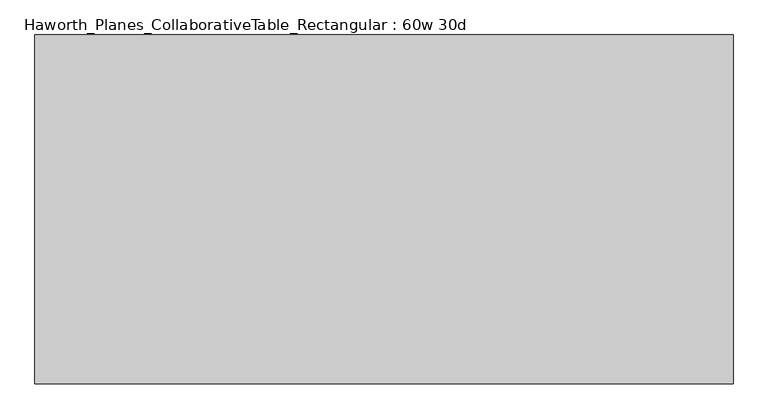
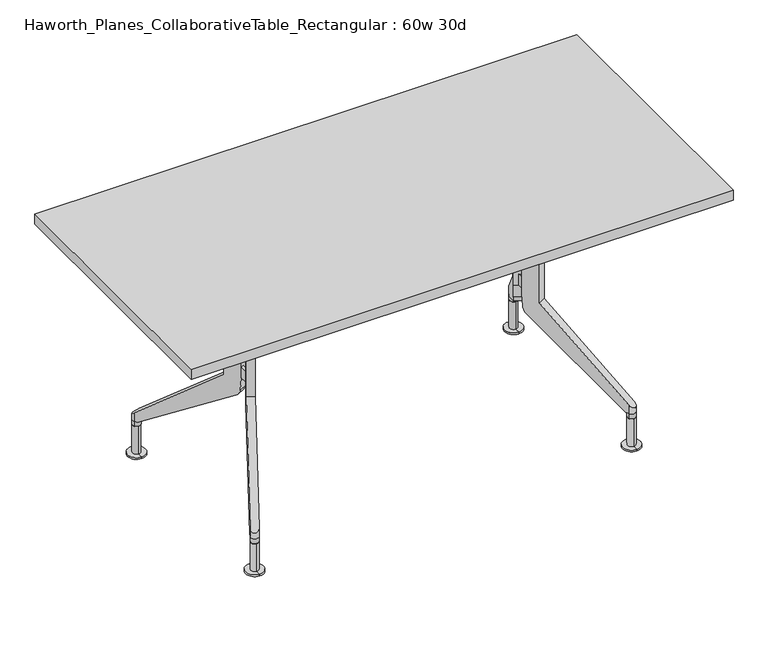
"""IFC4 building model written with IfcOpenShell, lengths in millimetres: furniture geometry, Haworth_Planes_CollaborativeTable_Rectangular : 60w 30d."""

from ifc_helpers import new_model, si_unit, point, frame, frame_2d, origin, place, context, project, spatial, polyline, circle_curve, ellipse_curve, trimmed, segment, composite_curve, outline, extrude, source, transform, mapped, element, save
from ifc_brep_helpers import plane_surface, cylinder_surface, advanced_brep


def haworth_planes_collaborativetable_rectangular_60w_30d_d738dc93(model_context):
    return source(origin(), model_context, "Body", "SolidModel", [
        extrude(outline(composite_curve([segment(polyline([(62.6070312, 684.7085937), (62.6070312, 643.5651991)]), True, "CONTINUOUS"), segment(trimmed(circle_curve(frame_2d((56.2570312, 643.5651991)), 6.35), [point((62.6070312, 643.5651991))], [point((56.2570312, 637.2151991))], False, "CARTESIAN"), True, "CONTINUOUS"), segment(polyline([(56.2570312, 637.2151991), (-56.2570313, 637.2151991)]), True, "CONTINUOUS"), segment(trimmed(circle_curve(frame_2d((-56.2570313, 643.5651991)), 6.35), [point((-56.2570313, 637.2151991))], [point((-62.6070313, 643.5651991))], False, "CARTESIAN"), True, "CONTINUOUS"), segment(polyline([(-62.6070313, 643.5651991), (-62.6070313, 684.7085937), (62.6070312, 684.7085937)]), True, "CONTINUOUS")], self_intersect=False)), frame((-381.0, 0.0, 0.0), z_axis=(1.0, 0.0, 0.0), x_axis=(0.0, 1.0, 0.0)), (0.0, 0.0, 1.0), 762.0),
        extrude(outline(polyline([(762.0, 381.0), (762.0, -381.0), (-762.0, -381.0), (-762.0, 381.0), (762.0, 381.0)])), frame((0.0, 0.0, 706.4375), z_axis=(0.0, 0.0, 1.0), x_axis=(1.0, 0.0, 0.0)), (0.0, 0.0, 1.0), 30.1625),
        advanced_brep(
        [(530.225, -276.6169029, 87.3125), (520.4062702, -292.9500622, 87.3125), (530.2071566, -298.8418958, 87.3125), (530.2160783, -287.7293994, 87.3125), (540.0298221, -282.5161384, 87.3125), (530.2160783, -287.7293994, 0.0), (530.1956859, -313.1293912, 0.0), (530.2364707, -262.3294076, 0.0), (530.1956859, -313.1293912, 4.7625), (530.2364707, -262.3294076, 4.7625), (530.2071566, -298.8418958, 4.7625), (530.225, -276.6169029, 4.7625), (530.2071566, -298.8418958, 81.9372337)],
        [
            (0, 1, circle_curve(frame((530.2160783, -287.7293994, 87.3125), z_axis=(0.0, 0.0, 1.0), x_axis=(0.0008028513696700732, 0.9999996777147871, 0.0)), 11.1125)),
            (1, 2, circle_curve(frame((530.2160783, -287.7293994, 87.3125), z_axis=(0.0, 0.0, 1.0), x_axis=(0.0008028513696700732, 0.9999996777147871, 0.0)), 11.1125)),
            (2, 3),
            (3, 0),
            (2, 4, circle_curve(frame((530.2160783, -287.7293994, 87.3125), z_axis=(0.0, 0.0, 1.0), x_axis=(0.0008028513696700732, 0.9999996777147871, 0.0)), 11.1125)),
            (4, 0, circle_curve(frame((530.2160783, -287.7293994, 87.3125), z_axis=(0.0, 0.0, 1.0), x_axis=(0.0008028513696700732, 0.9999996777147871, 0.0)), 11.1125)),
            (5, 6),
            (6, 7, circle_curve(frame((530.2160783, -287.7293994, 0.0), z_axis=(0.0, 0.0, -1.0), x_axis=(0.0008028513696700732, 0.9999996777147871, 0.0)), 25.4)),
            (7, 5),
            (7, 6, circle_curve(frame((530.2160783, -287.7293994, 0.0), z_axis=(0.0, 0.0, -1.0), x_axis=(0.0008028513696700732, 0.9999996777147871, 0.0)), 25.4)),
            (6, 8),
            (8, 9, circle_curve(frame((530.2160783, -287.7293994, 4.7625), z_axis=(0.0, 0.0, -1.0), x_axis=(0.0008028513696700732, 0.9999996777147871, 0.0)), 25.4)),
            (9, 7),
            (9, 8, circle_curve(frame((530.2160783, -287.7293994, 4.7625), z_axis=(0.0, 0.0, -1.0), x_axis=(0.0008028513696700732, 0.9999996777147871, 0.0)), 25.4)),
            (8, 10),
            (10, 11, circle_curve(frame((530.2160783, -287.7293994, 4.7625), z_axis=(0.0, 0.0, -1.0), x_axis=(0.0008028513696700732, 0.9999996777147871, 0.0)), 11.1125)),
            (11, 9),
            (11, 10, circle_curve(frame((530.2160783, -287.7293994, 4.7625), z_axis=(0.0, 0.0, -1.0), x_axis=(0.0008028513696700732, 0.9999996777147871, 0.0)), 11.1125)),
            (10, 12),
            (12, 2),
            (0, 11),
        ],
        [
            plane_surface(frame((530.2160783, -287.7293994, 87.3125), z_axis=(0.0, 0.0, 1.0), x_axis=(0.0008028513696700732, 0.9999996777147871, 0.0))),
            plane_surface(frame((530.2160783, -287.7293994, 0.0), z_axis=(0.0, 0.0, -1.0), x_axis=(0.0008028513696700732, 0.9999996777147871, 0.0))),
            cylinder_surface(frame((530.2160783, -287.7293994, 87.0927212), z_axis=(0.0, 0.0, -1.0), x_axis=(0.0008028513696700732, 0.9999996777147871, 0.0)), 25.4),
            plane_surface(frame((530.2160783, -287.7293994, 4.7625), z_axis=(0.0, 0.0, 1.0), x_axis=(0.0008028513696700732, 0.9999996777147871, 0.0))),
            cylinder_surface(frame((530.2160783, -287.7293994, 87.0927212), z_axis=(0.0, 0.0, -1.0), x_axis=(0.0008028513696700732, 0.9999996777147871, 0.0)), 11.1125),
        ],
        [
            (0, [[1, 2, 3, 4]]),
            (0, [[-3, 5, 6, -4]]),
            (1, [[7, 8, 9]]),
            (1, [[10, -7, -9]]),
            (2, [[11, 12, 13, -8]]),
            (2, [[-13, 14, -11, -10]]),
            (3, [[15, 16, 17, -12]]),
            (3, [[-17, 18, -15, -14]]),
            (4, [[19, 20, -2, -1, 21, -16]]),
            (4, [[-21, -6, -5, -20, -19, -18]]),
        ],
    ),
        advanced_brep(
        [(530.2339217, 287.7294065, 87.3125), (530.225, 298.8419029, 87.3125), (530.2428434, 276.6169101, 87.3125), (530.2135293, 313.1293983, 0.0), (530.2339217, 287.7294065, 0.0), (530.2543141, 262.3294147, 0.0), (530.2135293, 313.1293983, 4.7625), (530.2543141, 262.3294147, 4.7625), (530.225, 298.8419029, 4.7625), (530.2428434, 276.6169101, 4.7625)],
        [
            (0, 1),
            (1, 2, circle_curve(frame((530.2339217, 287.7294065, 87.3125), z_axis=(0.0, 0.0, 1.0), x_axis=(0.0008028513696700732, -0.9999996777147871, 0.0)), 11.1125)),
            (2, 0),
            (2, 1, circle_curve(frame((530.2339217, 287.7294065, 87.3125), z_axis=(0.0, 0.0, 1.0), x_axis=(0.0008028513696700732, -0.9999996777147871, 0.0)), 11.1125)),
            (3, 4),
            (4, 5),
            (5, 3, circle_curve(frame((530.2339217, 287.7294065, 0.0), z_axis=(0.0, 0.0, -1.0), x_axis=(0.0008028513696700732, -0.9999996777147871, 0.0)), 25.4)),
            (3, 5, circle_curve(frame((530.2339217, 287.7294065, 0.0), z_axis=(0.0, 0.0, -1.0), x_axis=(0.0008028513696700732, -0.9999996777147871, 0.0)), 25.4)),
            (6, 3),
            (5, 7),
            (7, 6, circle_curve(frame((530.2339217, 287.7294065, 4.7625), z_axis=(0.0, 0.0, -1.0), x_axis=(0.0008028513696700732, -0.9999996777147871, 0.0)), 25.4)),
            (6, 7, circle_curve(frame((530.2339217, 287.7294065, 4.7625), z_axis=(0.0, 0.0, -1.0), x_axis=(0.0008028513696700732, -0.9999996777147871, 0.0)), 25.4)),
            (8, 6),
            (7, 9),
            (9, 8, circle_curve(frame((530.2339217, 287.7294065, 4.7625), z_axis=(0.0, 0.0, -1.0), x_axis=(0.0008028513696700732, -0.9999996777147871, 0.0)), 11.1125)),
            (8, 9, circle_curve(frame((530.2339217, 287.7294065, 4.7625), z_axis=(0.0, 0.0, -1.0), x_axis=(0.0008028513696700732, -0.9999996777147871, 0.0)), 11.1125)),
            (1, 8),
            (9, 2),
        ],
        [
            plane_surface(frame((530.2339217, 287.7294065, 87.3125), z_axis=(0.0, 0.0, 1.0), x_axis=(0.0008028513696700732, -0.9999996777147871, 0.0))),
            plane_surface(frame((530.2339217, 287.7294065, 0.0), z_axis=(0.0, 0.0, -1.0), x_axis=(0.0008028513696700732, -0.9999996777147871, 0.0))),
            cylinder_surface(frame((530.2339217, 287.7294065, 87.0927212), z_axis=(0.0, 0.0, 1.0), x_axis=(0.0008028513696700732, -0.9999996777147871, 0.0)), 25.4),
            plane_surface(frame((530.2339217, 287.7294065, 4.7625), z_axis=(0.0, 0.0, 1.0), x_axis=(0.0008028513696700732, -0.9999996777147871, 0.0))),
            cylinder_surface(frame((530.2339217, 287.7294065, 87.0927212), z_axis=(0.0, 0.0, 1.0), x_axis=(0.0008028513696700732, -0.9999996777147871, 0.0)), 11.1125),
        ],
        [
            (0, [[1, 2, 3]]),
            (0, [[-3, 4, -1]]),
            (1, [[5, 6, 7]]),
            (1, [[-6, -5, 8]]),
            (2, [[9, -7, 10, 11]]),
            (2, [[-10, -8, -9, 12]]),
            (3, [[13, -11, 14, 15]]),
            (3, [[-14, -12, -13, 16]]),
            (4, [[17, -15, 18, -2]]),
            (4, [[-18, -16, -17, -4]]),
        ],
    ),
        advanced_brep(
        [(395.2875, 10.2759364, 346.075), (395.2875, -10.2759364, 346.075), (386.9624427, -14.7024039, 346.075), (386.9624427, 14.7024039, 346.075), (386.9624427, -14.7024039, 377.825), (386.9624427, 14.7024039, 377.825), (395.2875, -10.2759364, 377.825), (395.2875, 10.2759364, 377.825), (520.4132234, 292.9463652, 127.0692937), (540.0367766, 282.5124407, 127.0692937), (540.0367766, 282.5124407, 102.60711), (520.4132234, 292.9463652, 102.60711), (399.5129171, 65.5636971, 706.4375), (399.5129171, 65.5636971, 336.5430612), (516.0759245, 284.7890113, 102.60711), (382.2901681, 33.1720949, 289.5346), (376.8554044, 22.9506894, 309.598894), (375.6639467, 20.709861, 345.8924055), (375.6639467, 20.709861, 706.4375), (419.1364704, 55.1297725, 706.4375), (395.2875, 10.2759364, 706.4375), (395.2875, 10.2759364, 345.8924055), (396.4789577, 12.5167648, 309.598894), (401.9137214, 22.7381703, 289.5346), (535.6994778, 274.3550868, 102.60711), (419.1364704, 55.1297725, 336.5430612), (520.4353129, 282.4711065, 102.60711), (531.3400894, 276.6729916, 102.60711), (540.0367766, 282.5124407, 87.3125), (520.4132234, 292.9463652, 87.3125), (520.4132234, -292.9463652, 102.60711), (540.0367766, -282.5124407, 102.60711), (540.0367766, -282.5124407, 127.0692937), (520.4132234, -292.9463652, 127.0692937), (399.5129171, -65.5636971, 706.4375), (375.6639467, -20.709861, 706.4375), (375.6639467, -20.709861, 345.8924055), (376.8554044, -22.9506894, 309.598894), (382.2901681, -33.1720949, 289.5346), (516.0759245, -284.7890113, 102.60711), (399.5129171, -65.5636971, 336.5430612), (419.1364704, -55.1297725, 706.4375), (419.1364704, -55.1297725, 336.5430612), (535.6994778, -274.3550868, 102.60711), (401.9137214, -22.7381703, 289.5346), (396.4789577, -12.5167648, 309.598894), (395.2875, -10.2759364, 345.8924055), (395.2875, -10.2759364, 706.4375), (531.3400894, -276.6729916, 102.60711), (520.4353129, -282.4711065, 102.60711), (540.0367766, -282.5124407, 87.3125), (520.4132234, -292.9463652, 87.3125)],
        [
            (0, 1),
            (1, 2),
            (2, 3),
            (3, 0),
            (2, 4),
            (4, 5),
            (5, 3),
            (4, 6),
            (6, 7),
            (7, 5),
            (6, 1),
            (0, 7),
            (8, 9, ellipse_curve(frame((530.225, 287.7294029, 127.0692937), z_axis=(-0.29624204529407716, -0.5571557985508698, -0.7757693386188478), x_axis=(0.36419881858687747, 0.6849651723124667, -0.6310165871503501)), 14.3244898, 11.1125)),
            (9, 10),
            (10, 11, circle_curve(frame((530.225, 287.7294029, 102.60711), z_axis=(0.0, 0.0, 1.0), x_axis=(-0.8829495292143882, 0.4694679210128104, 0.0)), 11.1125)),
            (11, 8),
            (12, 13),
            (13, 8),
            (11, 14),
            (14, 15),
            (15, 16, circle_curve(frame((389.2363015, 46.2360018, 311.4430172), z_axis=(-0.8829495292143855, 0.4694679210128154, 0.0), x_axis=(-0.4694679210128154, -0.8829495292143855, 0.0)), 26.4365879)),
            (16, 17),
            (17, 18),
            (18, 12),
            (19, 20),
            (20, 7),
            (0, 21),
            (21, 22),
            (22, 23, circle_curve(frame((408.8598548, 35.8020773, 311.4430172), z_axis=(0.8829495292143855, -0.4694679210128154, 0.0), x_axis=(-0.4694679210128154, -0.8829495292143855, 0.0)), 26.4365879)),
            (23, 24),
            (24, 10),
            (9, 25),
            (25, 19),
            (18, 20),
            (19, 12),
            (17, 21),
            (16, 22),
            (15, 23),
            (14, 26),
            (26, 27),
            (27, 24),
            (13, 25),
            (27, 10, circle_curve(frame((530.225, 287.7294029, 102.60711), z_axis=(0.0, 0.0, 1.0), x_axis=(-0.8829495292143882, 0.4694679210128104, 0.0)), 11.1125)),
            (11, 26, circle_curve(frame((530.225, 287.7294029, 102.60711), z_axis=(0.0, 0.0, 1.0), x_axis=(-0.8829495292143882, 0.4694679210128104, 0.0)), 11.1125)),
            (26, 27, circle_curve(frame((530.225, 287.7294029, 102.60711), z_axis=(0.0, 0.0, 1.0), x_axis=(-0.8829495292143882, 0.4694679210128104, 0.0)), 11.1125)),
            (28, 29, circle_curve(frame((530.225, 287.7294029, 87.3125), z_axis=(0.0, 0.0, -1.0), x_axis=(-0.8829495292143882, 0.4694679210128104, 0.0)), 11.1125)),
            (29, 28, circle_curve(frame((530.225, 287.7294029, 87.3125), z_axis=(0.0, 0.0, -1.0), x_axis=(-0.8829495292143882, 0.4694679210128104, 0.0)), 11.1125)),
            (29, 11),
            (10, 28),
            (30, 31, circle_curve(frame((530.225, -287.7294029, 102.60711), z_axis=(0.0, 0.0, 1.0), x_axis=(-0.8829495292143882, -0.4694679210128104, 0.0)), 11.1125)),
            (31, 32),
            (32, 33, ellipse_curve(frame((530.225, -287.7294029, 127.0692937), z_axis=(-0.29624204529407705, 0.5571557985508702, -0.7757693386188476), x_axis=(0.36419881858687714, -0.6849651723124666, -0.6310165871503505)), 14.3244898, 11.1125)),
            (33, 30),
            (34, 35),
            (35, 36),
            (36, 37),
            (37, 38, circle_curve(frame((389.2363015, -46.2360018, 311.4430172), z_axis=(-0.8829495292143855, -0.4694679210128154, 0.0), x_axis=(-0.4694679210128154, 0.8829495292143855, 0.0)), 26.4365879)),
            (38, 39),
            (39, 30),
            (33, 40),
            (40, 34),
            (41, 42),
            (42, 32),
            (31, 43),
            (43, 44),
            (44, 45, circle_curve(frame((408.8598548, -35.8020773, 311.4430172), z_axis=(0.8829495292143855, 0.4694679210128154, 0.0), x_axis=(-0.4694679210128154, 0.8829495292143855, 0.0)), 26.4365879)),
            (45, 46),
            (46, 1),
            (6, 47),
            (47, 41),
            (34, 41),
            (47, 35),
            (46, 36),
            (45, 37),
            (44, 38),
            (43, 48),
            (48, 49),
            (49, 39),
            (42, 40),
            (49, 30, circle_curve(frame((530.225, -287.7294029, 102.60711), z_axis=(0.0, 0.0, 1.0), x_axis=(-0.8829495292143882, -0.4694679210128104, 0.0)), 11.1125)),
            (31, 48, circle_curve(frame((530.225, -287.7294029, 102.60711), z_axis=(0.0, 0.0, 1.0), x_axis=(-0.8829495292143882, -0.4694679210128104, 0.0)), 11.1125)),
            (48, 49, circle_curve(frame((530.225, -287.7294029, 102.60711), z_axis=(0.0, 0.0, 1.0), x_axis=(-0.8829495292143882, -0.4694679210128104, 0.0)), 11.1125)),
            (50, 51, circle_curve(frame((530.225, -287.7294029, 87.3125), z_axis=(0.0, 0.0, -1.0), x_axis=(-0.8829495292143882, -0.4694679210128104, 0.0)), 11.1125)),
            (51, 50, circle_curve(frame((530.225, -287.7294029, 87.3125), z_axis=(0.0, 0.0, -1.0), x_axis=(-0.8829495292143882, -0.4694679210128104, 0.0)), 11.1125)),
            (50, 31),
            (30, 51),
        ],
        [
            plane_surface(frame((395.2875, -25.4, 346.075), z_axis=(0.0, 0.0, -1.0), x_axis=(0.0, 1.0, 0.0))),
            plane_surface(frame((386.9624427, -25.4, 346.075), z_axis=(-1.0, 0.0, 0.0), x_axis=(0.0, 1.0, 0.0))),
            plane_surface(frame((386.9624427, -25.4, 377.825), z_axis=(0.0, 0.0, 1.0), x_axis=(0.0, 1.0, 0.0))),
            plane_surface(frame((395.2875, -25.4, 377.825), z_axis=(1.0, 0.0, 0.0), x_axis=(0.0, 1.0, 0.0))),
            cylinder_surface(frame((530.225, 287.7294029, 81.9372337), z_axis=(0.0, 0.0, -1.0), x_axis=(-0.8829495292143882, 0.4694679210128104, 0.0)), 11.1125),
            plane_surface(frame((375.6639467, 20.709861, 706.4375), z_axis=(-0.8829495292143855, 0.4694679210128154, 0.0), x_axis=(-0.4694679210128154, -0.8829495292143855, 0.0))),
            plane_surface(frame((395.2875, 10.2759364, 706.4375), z_axis=(0.8829495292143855, -0.4694679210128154, 0.0), x_axis=(0.4694679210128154, 0.8829495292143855, 0.0))),
            plane_surface(frame((399.5129171, 65.5636971, 706.4375), z_axis=(0.0, 0.0, 1.0000000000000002), x_axis=(0.8829495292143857, -0.469467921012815, 0.0))),
            plane_surface(frame((375.6639467, 20.709861, 706.4375), z_axis=(-0.4694679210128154, -0.8829495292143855, 0.0), x_axis=(0.8829495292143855, -0.4694679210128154, 0.0))),
            plane_surface(frame((375.6639467, 20.709861, 345.8924055), z_axis=(-0.46832432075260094, -0.8807987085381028, -0.0697564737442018), x_axis=(0.8829495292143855, -0.4694679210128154, 0.0))),
            cylinder_surface(frame((408.8598548, 35.8020773, 311.4430172), z_axis=(-0.8829495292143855, 0.4694679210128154, 0.0), x_axis=(-0.4694679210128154, -0.8829495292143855, 0.0)), 26.4365879),
            plane_surface(frame((382.2901681, 33.1720949, 289.5346), z_axis=(-0.2574936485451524, -0.48427993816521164, -0.8361638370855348), x_axis=(0.8829495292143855, -0.4694679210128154, 0.0))),
            plane_surface(frame((526.425069, 304.2531149, 116.6530756), z_axis=(0.29624204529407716, 0.5571557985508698, 0.7757693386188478), x_axis=(0.8829495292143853, -0.4694679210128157, 0.0))),
            plane_surface(frame((399.5129171, 65.5636971, 336.5430612), z_axis=(0.46946792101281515, 0.8829495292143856, 0.0), x_axis=(0.8829495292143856, -0.46946792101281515, 0.0))),
            plane_surface(frame((516.0759245, 284.7890113, 102.60711), z_axis=(0.0, 0.0, -1.0), x_axis=(0.8829495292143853, -0.4694679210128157, 0.0))),
            plane_surface(frame((520.4132234, 292.9463652, 102.60711), z_axis=(0.0, 0.0, 1.0), x_axis=(0.4694679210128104, 0.8829495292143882, 0.0))),
            plane_surface(frame((520.4132234, 292.9463652, 87.3125), z_axis=(0.0, 0.0, -1.0), x_axis=(-0.4694679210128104, -0.8829495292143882, 0.0))),
            cylinder_surface(frame((530.225, 287.7294029, 87.3125), z_axis=(0.0, 0.0, 1.0), x_axis=(-0.8829495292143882, 0.4694679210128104, 0.0)), 11.1125),
            cylinder_surface(frame((530.225, -287.7294029, 81.9372337), z_axis=(0.0, 0.0, -1.0), x_axis=(-0.8829495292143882, -0.4694679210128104, 0.0)), 11.1125),
            plane_surface(frame((399.5129171, -65.5636971, 336.5430612), z_axis=(-0.8829495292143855, -0.4694679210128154, 0.0), x_axis=(0.0, 0.0, -1.0))),
            plane_surface(frame((419.1364704, -55.1297725, 336.5430612), z_axis=(0.8829495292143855, 0.4694679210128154, 0.0), x_axis=(0.0, 0.0, 1.0))),
            plane_surface(frame((375.6639467, -20.709861, 706.4375), z_axis=(0.0, 0.0, 1.0000000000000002), x_axis=(0.8829495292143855, 0.4694679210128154, 0.0))),
            plane_surface(frame((375.6639467, -20.709861, 345.8924055), z_axis=(-0.4694679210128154, 0.8829495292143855, 0.0), x_axis=(0.8829495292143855, 0.4694679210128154, 0.0))),
            plane_surface(frame((376.8554044, -22.9506894, 309.598894), z_axis=(-0.46832432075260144, 0.8807987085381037, -0.06975647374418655), x_axis=(0.8829495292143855, 0.4694679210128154, 0.0))),
            cylinder_surface(frame((408.8598548, -35.8020773, 311.4430172), z_axis=(-0.8829495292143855, -0.4694679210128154, 0.0), x_axis=(-0.4694679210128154, 0.8829495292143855, 0.0)), 26.4365879),
            plane_surface(frame((516.0759245, -284.7890113, 102.60711), z_axis=(-0.25749364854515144, 0.48427993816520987, -0.8361638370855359), x_axis=(0.8829495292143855, 0.4694679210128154, 0.0))),
            plane_surface(frame((399.5129171, -65.5636971, 336.5430612), z_axis=(0.2962420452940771, -0.5571557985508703, 0.7757693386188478), x_axis=(0.8829495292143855, 0.4694679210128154, 0.0))),
            plane_surface(frame((399.5129171, -65.5636971, 706.4375), z_axis=(0.4694679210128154, -0.8829495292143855, 0.0), x_axis=(0.8829495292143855, 0.4694679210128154, 0.0))),
            plane_surface(frame((526.425069, -304.2531149, 102.60711), z_axis=(0.0, 0.0, -1.0), x_axis=(0.8829495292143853, 0.4694679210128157, 0.0))),
            plane_surface(frame((520.4132234, -292.9463652, 102.60711), z_axis=(0.0, 0.0, 1.0), x_axis=(-0.4694679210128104, 0.8829495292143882, 0.0))),
            plane_surface(frame((520.4132234, -292.9463652, 87.3125), z_axis=(0.0, 0.0, -1.0), x_axis=(0.4694679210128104, -0.8829495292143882, 0.0))),
            cylinder_surface(frame((530.225, -287.7294029, 87.3125), z_axis=(0.0, 0.0, 1.0), x_axis=(-0.8829495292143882, -0.4694679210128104, 0.0)), 11.1125),
        ],
        [
            (0, [[1, 2, 3, 4]]),
            (1, [[-3, 5, 6, 7]]),
            (2, [[-6, 8, 9, 10]]),
            (3, [[-9, 11, -1, 12]]),
            (4, [[13, 14, 15, 16]]),
            (5, [[17, 18, -16, 19, 20, 21, 22, 23, 24]]),
            (6, [[25, 26, -12, 27, 28, 29, 30, 31, -14, 32, 33]]),
            (7, [[34, -25, 35, -24]]),
            (8, [[36, -27, -4, -7, -10, -26, -34, -23]]),
            (9, [[37, -28, -36, -22]]),
            (10, [[38, -29, -37, -21]]),
            (11, [[39, 40, 41, -30, -38, -20]]),
            (12, [[-32, -13, -18, 42]]),
            (13, [[-35, -33, -42, -17]]),
            (14, [[-41, 43, -31]]),
            (14, [[44, -39, -19]]),
            (15, [[-40, 45]]),
            (16, [[46, 47]]),
            (17, [[48, -15, 49, -47]]),
            (17, [[-49, -43, -45, -44, -48, -46]]),
            (18, [[50, 51, 52, 53]]),
            (19, [[54, 55, 56, 57, 58, 59, -53, 60, 61]]),
            (20, [[62, 63, -51, 64, 65, 66, 67, 68, -11, 69, 70]]),
            (21, [[71, -70, 72, -54]]),
            (22, [[-72, -69, -8, -5, -2, -68, 73, -55]]),
            (23, [[-73, -67, 74, -56]]),
            (24, [[-74, -66, 75, -57]]),
            (25, [[-75, -65, 76, 77, 78, -58]]),
            (26, [[-60, -52, -63, 79]]),
            (27, [[-79, -62, -71, -61]]),
            (28, [[-78, 80, -59]]),
            (28, [[81, -76, -64]]),
            (29, [[-77, 82]]),
            (30, [[83, 84]]),
            (31, [[85, -50, 86, -83]]),
            (31, [[-86, -80, -82, -81, -85, -84]]),
        ],
    ),
        advanced_brep(
        [(-530.225, -276.6169029, 87.3125), (-530.2160783, -287.7293994, 87.3125), (-530.2071566, -298.8418958, 87.3125), (-520.4062702, -292.9500622, 87.3125), (-540.0298221, -282.5161384, 87.3125), (-530.2160783, -287.7293994, 0.0), (-530.2364707, -262.3294076, 0.0), (-530.1956859, -313.1293912, 0.0), (-530.2364707, -262.3294076, 4.7625), (-530.1956859, -313.1293912, 4.7625), (-530.225, -276.6169029, 4.7625), (-530.2071566, -298.8418958, 4.7625), (-530.2071566, -298.8418958, 81.9372337)],
        [
            (0, 1),
            (1, 2),
            (2, 3, circle_curve(frame((-530.2160783, -287.7293994, 87.3125), z_axis=(0.0, 0.0, 1.0), x_axis=(-0.0008028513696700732, 0.9999996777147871, 0.0)), 11.1125)),
            (3, 0, circle_curve(frame((-530.2160783, -287.7293994, 87.3125), z_axis=(0.0, 0.0, 1.0), x_axis=(-0.0008028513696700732, 0.9999996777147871, 0.0)), 11.1125)),
            (0, 4, circle_curve(frame((-530.2160783, -287.7293994, 87.3125), z_axis=(0.0, 0.0, 1.0), x_axis=(-0.0008028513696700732, 0.9999996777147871, 0.0)), 11.1125)),
            (4, 2, circle_curve(frame((-530.2160783, -287.7293994, 87.3125), z_axis=(0.0, 0.0, 1.0), x_axis=(-0.0008028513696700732, 0.9999996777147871, 0.0)), 11.1125)),
            (5, 6),
            (6, 7, circle_curve(frame((-530.2160783, -287.7293994, 0.0), z_axis=(0.0, 0.0, -1.0), x_axis=(-0.0008028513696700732, 0.9999996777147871, 0.0)), 25.4)),
            (7, 5),
            (7, 6, circle_curve(frame((-530.2160783, -287.7293994, 0.0), z_axis=(0.0, 0.0, -1.0), x_axis=(-0.0008028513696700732, 0.9999996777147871, 0.0)), 25.4)),
            (6, 8),
            (8, 9, circle_curve(frame((-530.2160783, -287.7293994, 4.7625), z_axis=(0.0, 0.0, -1.0), x_axis=(-0.0008028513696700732, 0.9999996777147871, 0.0)), 25.4)),
            (9, 7),
            (9, 8, circle_curve(frame((-530.2160783, -287.7293994, 4.7625), z_axis=(0.0, 0.0, -1.0), x_axis=(-0.0008028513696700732, 0.9999996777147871, 0.0)), 25.4)),
            (8, 10),
            (10, 11, circle_curve(frame((-530.2160783, -287.7293994, 4.7625), z_axis=(0.0, 0.0, -1.0), x_axis=(-0.0008028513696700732, 0.9999996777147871, 0.0)), 11.1125)),
            (11, 9),
            (11, 10, circle_curve(frame((-530.2160783, -287.7293994, 4.7625), z_axis=(0.0, 0.0, -1.0), x_axis=(-0.0008028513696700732, 0.9999996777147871, 0.0)), 11.1125)),
            (10, 0),
            (2, 12),
            (12, 11),
        ],
        [
            plane_surface(frame((-530.2160783, -287.7293994, 87.3125), z_axis=(0.0, 0.0, 1.0), x_axis=(-0.0008028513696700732, 0.9999996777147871, 0.0))),
            plane_surface(frame((-530.2160783, -287.7293994, 0.0), z_axis=(0.0, 0.0, -1.0), x_axis=(-0.0008028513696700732, 0.9999996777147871, 0.0))),
            cylinder_surface(frame((-530.2160783, -287.7293994, 87.0927212), z_axis=(0.0, 0.0, -1.0), x_axis=(-0.0008028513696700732, 0.9999996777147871, 0.0)), 25.4),
            plane_surface(frame((-530.2160783, -287.7293994, 4.7625), z_axis=(0.0, 0.0, 1.0), x_axis=(-0.0008028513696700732, 0.9999996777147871, 0.0))),
            cylinder_surface(frame((-530.2160783, -287.7293994, 87.0927212), z_axis=(0.0, 0.0, -1.0), x_axis=(-0.0008028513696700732, 0.9999996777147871, 0.0)), 11.1125),
        ],
        [
            (0, [[1, 2, 3, 4]]),
            (0, [[-1, 5, 6, -2]]),
            (1, [[7, 8, 9]]),
            (1, [[-7, -9, 10]]),
            (2, [[-8, 11, 12, 13]]),
            (2, [[-10, -13, 14, -11]]),
            (3, [[-12, 15, 16, 17]]),
            (3, [[-14, -17, 18, -15]]),
            (4, [[-16, 19, -4, -3, 20, 21]]),
            (4, [[-18, -21, -20, -6, -5, -19]]),
        ],
    ),
        advanced_brep(
        [(-530.2339217, 287.7294065, 87.3125), (-530.2428434, 276.6169101, 87.3125), (-530.225, 298.8419029, 87.3125), (-530.2135293, 313.1293983, 0.0), (-530.2543141, 262.3294147, 0.0), (-530.2339217, 287.7294065, 0.0), (-530.2135293, 313.1293983, 4.7625), (-530.2543141, 262.3294147, 4.7625), (-530.225, 298.8419029, 4.7625), (-530.2428434, 276.6169101, 4.7625)],
        [
            (0, 1),
            (1, 2, circle_curve(frame((-530.2339217, 287.7294065, 87.3125), z_axis=(0.0, 0.0, 1.0), x_axis=(-0.0008028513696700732, -0.9999996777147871, 0.0)), 11.1125)),
            (2, 0),
            (2, 1, circle_curve(frame((-530.2339217, 287.7294065, 87.3125), z_axis=(0.0, 0.0, 1.0), x_axis=(-0.0008028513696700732, -0.9999996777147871, 0.0)), 11.1125)),
            (3, 4, circle_curve(frame((-530.2339217, 287.7294065, 0.0), z_axis=(0.0, 0.0, -1.0), x_axis=(-0.0008028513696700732, -0.9999996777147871, 0.0)), 25.4)),
            (4, 5),
            (5, 3),
            (4, 3, circle_curve(frame((-530.2339217, 287.7294065, 0.0), z_axis=(0.0, 0.0, -1.0), x_axis=(-0.0008028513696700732, -0.9999996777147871, 0.0)), 25.4)),
            (6, 7, circle_curve(frame((-530.2339217, 287.7294065, 4.7625), z_axis=(0.0, 0.0, -1.0), x_axis=(-0.0008028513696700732, -0.9999996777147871, 0.0)), 25.4)),
            (7, 4),
            (3, 6),
            (7, 6, circle_curve(frame((-530.2339217, 287.7294065, 4.7625), z_axis=(0.0, 0.0, -1.0), x_axis=(-0.0008028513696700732, -0.9999996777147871, 0.0)), 25.4)),
            (8, 9, circle_curve(frame((-530.2339217, 287.7294065, 4.7625), z_axis=(0.0, 0.0, -1.0), x_axis=(-0.0008028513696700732, -0.9999996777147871, 0.0)), 11.1125)),
            (9, 7),
            (6, 8),
            (9, 8, circle_curve(frame((-530.2339217, 287.7294065, 4.7625), z_axis=(0.0, 0.0, -1.0), x_axis=(-0.0008028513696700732, -0.9999996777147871, 0.0)), 11.1125)),
            (1, 9),
            (8, 2),
        ],
        [
            plane_surface(frame((-530.2339217, 287.7294065, 87.3125), z_axis=(0.0, 0.0, 1.0), x_axis=(-0.0008028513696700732, -0.9999996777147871, 0.0))),
            plane_surface(frame((-530.2339217, 287.7294065, 0.0), z_axis=(0.0, 0.0, -1.0), x_axis=(-0.0008028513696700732, -0.9999996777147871, 0.0))),
            cylinder_surface(frame((-530.2339217, 287.7294065, 87.0927212), z_axis=(0.0, 0.0, 1.0), x_axis=(-0.0008028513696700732, -0.9999996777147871, 0.0)), 25.4),
            plane_surface(frame((-530.2339217, 287.7294065, 4.7625), z_axis=(0.0, 0.0, 1.0), x_axis=(-0.0008028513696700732, -0.9999996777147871, 0.0))),
            cylinder_surface(frame((-530.2339217, 287.7294065, 87.0927212), z_axis=(0.0, 0.0, 1.0), x_axis=(-0.0008028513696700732, -0.9999996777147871, 0.0)), 11.1125),
        ],
        [
            (0, [[1, 2, 3]]),
            (0, [[-3, 4, -1]]),
            (1, [[5, 6, 7]]),
            (1, [[8, -7, -6]]),
            (2, [[9, 10, -5, 11]]),
            (2, [[12, -11, -8, -10]]),
            (3, [[13, 14, -9, 15]]),
            (3, [[16, -15, -12, -14]]),
            (4, [[-2, 17, -13, 18]]),
            (4, [[-4, -18, -16, -17]]),
        ],
    ),
        advanced_brep(
        [(-395.2875, 10.2759364, 346.075), (-386.9624427, 14.7024039, 346.075), (-386.9624427, -14.7024039, 346.075), (-395.2875, -10.2759364, 346.075), (-386.9624427, 14.7024039, 377.825), (-386.9624427, -14.7024039, 377.825), (-395.2875, 10.2759364, 377.825), (-395.2875, -10.2759364, 377.825), (-520.4132234, 292.9463652, 127.0692937), (-520.4132234, 292.9463652, 102.60711), (-540.0367766, 282.5124407, 102.60711), (-540.0367766, 282.5124407, 127.0692937), (-399.5129171, 65.5636971, 706.4375), (-375.6639467, 20.709861, 706.4375), (-375.6639467, 20.709861, 345.8924055), (-376.8554044, 22.9506894, 309.598894), (-382.2901681, 33.1720949, 289.5346), (-516.0759245, 284.7890113, 102.60711), (-399.5129171, 65.5636971, 336.5430612), (-419.1364704, 55.1297725, 706.4375), (-419.1364704, 55.1297725, 336.5430612), (-535.6994778, 274.3550868, 102.60711), (-401.9137214, 22.7381703, 289.5346), (-396.4789577, 12.5167648, 309.598894), (-395.2875, 10.2759364, 345.8924055), (-395.2875, 10.2759364, 706.4375), (-531.3400894, 276.6729916, 102.60711), (-520.4353129, 282.4711065, 102.60711), (-540.0367766, 282.5124407, 87.3125), (-520.4132234, 292.9463652, 87.3125), (-520.4132234, -292.9463652, 102.60711), (-520.4132234, -292.9463652, 127.0692937), (-540.0367766, -282.5124407, 127.0692937), (-540.0367766, -282.5124407, 102.60711), (-399.5129171, -65.5636971, 706.4375), (-399.5129171, -65.5636971, 336.5430612), (-516.0759245, -284.7890113, 102.60711), (-382.2901681, -33.1720949, 289.5346), (-376.8554044, -22.9506894, 309.598894), (-375.6639467, -20.709861, 345.8924055), (-375.6639467, -20.709861, 706.4375), (-419.1364704, -55.1297725, 706.4375), (-395.2875, -10.2759364, 706.4375), (-395.2875, -10.2759364, 345.8924055), (-396.4789577, -12.5167648, 309.598894), (-401.9137214, -22.7381703, 289.5346), (-535.6994778, -274.3550868, 102.60711), (-419.1364704, -55.1297725, 336.5430612), (-520.4353129, -282.4711065, 102.60711), (-531.3400894, -276.6729916, 102.60711), (-540.0367766, -282.5124407, 87.3125), (-520.4132234, -292.9463652, 87.3125)],
        [
            (0, 1),
            (1, 2),
            (2, 3),
            (3, 0),
            (1, 4),
            (4, 5),
            (5, 2),
            (4, 6),
            (6, 7),
            (7, 5),
            (6, 0),
            (3, 7),
            (8, 9),
            (9, 10, circle_curve(frame((-530.225, 287.7294029, 102.60711), z_axis=(0.0, 0.0, 1.0), x_axis=(0.8829495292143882, 0.4694679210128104, 0.0)), 11.1125)),
            (10, 11),
            (11, 8, ellipse_curve(frame((-530.225, 287.7294029, 127.0692937), z_axis=(0.29624204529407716, -0.5571557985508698, -0.7757693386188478), x_axis=(-0.36419881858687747, 0.6849651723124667, -0.6310165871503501)), 14.3244898, 11.1125)),
            (12, 13),
            (13, 14),
            (14, 15),
            (15, 16, circle_curve(frame((-389.2363015, 46.2360018, 311.4430172), z_axis=(0.8829495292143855, 0.4694679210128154, 0.0), x_axis=(0.4694679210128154, -0.8829495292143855, 0.0)), 26.4365879)),
            (16, 17),
            (17, 9),
            (8, 18),
            (18, 12),
            (19, 20),
            (20, 11),
            (10, 21),
            (21, 22),
            (22, 23, circle_curve(frame((-408.8598548, 35.8020773, 311.4430172), z_axis=(-0.8829495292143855, -0.4694679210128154, 0.0), x_axis=(0.4694679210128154, -0.8829495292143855, 0.0)), 26.4365879)),
            (23, 24),
            (24, 0),
            (6, 25),
            (25, 19),
            (12, 19),
            (25, 13),
            (24, 14),
            (23, 15),
            (22, 16),
            (21, 26),
            (26, 27),
            (27, 17),
            (20, 18),
            (27, 9, circle_curve(frame((-530.225, 287.7294029, 102.60711), z_axis=(0.0, 0.0, 1.0), x_axis=(0.8829495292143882, 0.4694679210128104, 0.0)), 11.1125)),
            (10, 26, circle_curve(frame((-530.225, 287.7294029, 102.60711), z_axis=(0.0, 0.0, 1.0), x_axis=(0.8829495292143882, 0.4694679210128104, 0.0)), 11.1125)),
            (26, 27, circle_curve(frame((-530.225, 287.7294029, 102.60711), z_axis=(0.0, 0.0, 1.0), x_axis=(0.8829495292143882, 0.4694679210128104, 0.0)), 11.1125)),
            (28, 29, circle_curve(frame((-530.225, 287.7294029, 87.3125), z_axis=(0.0, 0.0, -1.0), x_axis=(0.8829495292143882, 0.4694679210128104, 0.0)), 11.1125)),
            (29, 28, circle_curve(frame((-530.225, 287.7294029, 87.3125), z_axis=(0.0, 0.0, -1.0), x_axis=(0.8829495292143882, 0.4694679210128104, 0.0)), 11.1125)),
            (28, 10),
            (9, 29),
            (30, 31),
            (31, 32, ellipse_curve(frame((-530.225, -287.7294029, 127.0692937), z_axis=(0.29624204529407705, 0.5571557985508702, -0.7757693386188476), x_axis=(-0.36419881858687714, -0.6849651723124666, -0.6310165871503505)), 14.3244898, 11.1125)),
            (32, 33),
            (33, 30, circle_curve(frame((-530.225, -287.7294029, 102.60711), z_axis=(0.0, 0.0, 1.0), x_axis=(0.8829495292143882, -0.4694679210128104, 0.0)), 11.1125)),
            (34, 35),
            (35, 31),
            (30, 36),
            (36, 37),
            (37, 38, circle_curve(frame((-389.2363015, -46.2360018, 311.4430172), z_axis=(0.8829495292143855, -0.4694679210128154, 0.0), x_axis=(0.4694679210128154, 0.8829495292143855, 0.0)), 26.4365879)),
            (38, 39),
            (39, 40),
            (40, 34),
            (41, 42),
            (42, 7),
            (3, 43),
            (43, 44),
            (44, 45, circle_curve(frame((-408.8598548, -35.8020773, 311.4430172), z_axis=(-0.8829495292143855, 0.4694679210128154, 0.0), x_axis=(0.4694679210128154, 0.8829495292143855, 0.0)), 26.4365879)),
            (45, 46),
            (46, 33),
            (32, 47),
            (47, 41),
            (40, 42),
            (41, 34),
            (39, 43),
            (38, 44),
            (37, 45),
            (36, 48),
            (48, 49),
            (49, 46),
            (35, 47),
            (30, 48, circle_curve(frame((-530.225, -287.7294029, 102.60711), z_axis=(0.0, 0.0, 1.0), x_axis=(0.8829495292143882, -0.4694679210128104, 0.0)), 11.1125)),
            (49, 33, circle_curve(frame((-530.225, -287.7294029, 102.60711), z_axis=(0.0, 0.0, 1.0), x_axis=(0.8829495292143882, -0.4694679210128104, 0.0)), 11.1125)),
            (48, 49, circle_curve(frame((-530.225, -287.7294029, 102.60711), z_axis=(0.0, 0.0, 1.0), x_axis=(0.8829495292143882, -0.4694679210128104, 0.0)), 11.1125)),
            (50, 51, circle_curve(frame((-530.225, -287.7294029, 87.3125), z_axis=(0.0, 0.0, -1.0), x_axis=(0.8829495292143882, -0.4694679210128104, 0.0)), 11.1125)),
            (51, 50, circle_curve(frame((-530.225, -287.7294029, 87.3125), z_axis=(0.0, 0.0, -1.0), x_axis=(0.8829495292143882, -0.4694679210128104, 0.0)), 11.1125)),
            (51, 30),
            (33, 50),
        ],
        [
            plane_surface(frame((-395.2875, -25.4, 346.075), z_axis=(0.0, 0.0, -1.0), x_axis=(0.0, 1.0, 0.0))),
            plane_surface(frame((-386.9624427, -25.4, 346.075), z_axis=(1.0, 0.0, 0.0), x_axis=(0.0, 1.0, 0.0))),
            plane_surface(frame((-386.9624427, -25.4, 377.825), z_axis=(0.0, 0.0, 1.0), x_axis=(0.0, 1.0, 0.0))),
            plane_surface(frame((-395.2875, -25.4, 377.825), z_axis=(-1.0, 0.0, 0.0), x_axis=(0.0, 1.0, 0.0))),
            cylinder_surface(frame((-530.225, 287.7294029, 81.9372337), z_axis=(0.0, 0.0, -1.0), x_axis=(0.8829495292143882, 0.4694679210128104, 0.0)), 11.1125),
            plane_surface(frame((-375.6639467, 20.709861, 706.4375), z_axis=(0.8829495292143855, 0.4694679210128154, 0.0), x_axis=(0.4694679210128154, -0.8829495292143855, 0.0))),
            plane_surface(frame((-395.2875, 10.2759364, 706.4375), z_axis=(-0.8829495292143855, -0.4694679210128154, 0.0), x_axis=(-0.4694679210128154, 0.8829495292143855, 0.0))),
            plane_surface(frame((-399.5129171, 65.5636971, 706.4375), z_axis=(0.0, 0.0, 1.0000000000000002), x_axis=(-0.8829495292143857, -0.469467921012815, 0.0))),
            plane_surface(frame((-375.6639467, 20.709861, 706.4375), z_axis=(0.4694679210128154, -0.8829495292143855, 0.0), x_axis=(-0.8829495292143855, -0.4694679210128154, 0.0))),
            plane_surface(frame((-375.6639467, 20.709861, 345.8924055), z_axis=(0.46832432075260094, -0.8807987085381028, -0.0697564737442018), x_axis=(-0.8829495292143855, -0.4694679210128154, 0.0))),
            cylinder_surface(frame((-408.8598548, 35.8020773, 311.4430172), z_axis=(0.8829495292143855, 0.4694679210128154, 0.0), x_axis=(0.4694679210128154, -0.8829495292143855, 0.0)), 26.4365879),
            plane_surface(frame((-382.2901681, 33.1720949, 289.5346), z_axis=(0.2574936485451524, -0.48427993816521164, -0.8361638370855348), x_axis=(-0.8829495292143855, -0.4694679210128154, 0.0))),
            plane_surface(frame((-526.425069, 304.2531149, 116.6530756), z_axis=(-0.29624204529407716, 0.5571557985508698, 0.7757693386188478), x_axis=(-0.8829495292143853, -0.4694679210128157, 0.0))),
            plane_surface(frame((-399.5129171, 65.5636971, 336.5430612), z_axis=(-0.46946792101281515, 0.8829495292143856, 0.0), x_axis=(-0.8829495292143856, -0.46946792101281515, 0.0))),
            plane_surface(frame((-516.0759245, 284.7890113, 102.60711), z_axis=(0.0, 0.0, -1.0), x_axis=(-0.8829495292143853, -0.4694679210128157, 0.0))),
            plane_surface(frame((-520.4132234, 292.9463652, 102.60711), z_axis=(0.0, 0.0, 1.0), x_axis=(-0.4694679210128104, 0.8829495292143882, 0.0))),
            plane_surface(frame((-520.4132234, 292.9463652, 87.3125), z_axis=(0.0, 0.0, -1.0), x_axis=(0.4694679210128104, -0.8829495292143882, 0.0))),
            cylinder_surface(frame((-530.225, 287.7294029, 87.3125), z_axis=(0.0, 0.0, 1.0), x_axis=(0.8829495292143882, 0.4694679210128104, 0.0)), 11.1125),
            cylinder_surface(frame((-530.225, -287.7294029, 81.9372337), z_axis=(0.0, 0.0, -1.0), x_axis=(0.8829495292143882, -0.4694679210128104, 0.0)), 11.1125),
            plane_surface(frame((-399.5129171, -65.5636971, 336.5430612), z_axis=(0.8829495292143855, -0.4694679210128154, 0.0), x_axis=(0.0, 0.0, -1.0))),
            plane_surface(frame((-419.1364704, -55.1297725, 336.5430612), z_axis=(-0.8829495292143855, 0.4694679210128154, 0.0), x_axis=(0.0, 0.0, 1.0))),
            plane_surface(frame((-375.6639467, -20.709861, 706.4375), z_axis=(0.0, 0.0, 1.0000000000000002), x_axis=(-0.8829495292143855, 0.4694679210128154, 0.0))),
            plane_surface(frame((-375.6639467, -20.709861, 345.8924055), z_axis=(0.4694679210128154, 0.8829495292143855, 0.0), x_axis=(-0.8829495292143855, 0.4694679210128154, 0.0))),
            plane_surface(frame((-376.8554044, -22.9506894, 309.598894), z_axis=(0.46832432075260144, 0.8807987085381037, -0.06975647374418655), x_axis=(-0.8829495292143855, 0.4694679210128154, 0.0))),
            cylinder_surface(frame((-408.8598548, -35.8020773, 311.4430172), z_axis=(0.8829495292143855, -0.4694679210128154, 0.0), x_axis=(0.4694679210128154, 0.8829495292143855, 0.0)), 26.4365879),
            plane_surface(frame((-516.0759245, -284.7890113, 102.60711), z_axis=(0.25749364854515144, 0.48427993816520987, -0.8361638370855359), x_axis=(-0.8829495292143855, 0.4694679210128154, 0.0))),
            plane_surface(frame((-399.5129171, -65.5636971, 336.5430612), z_axis=(-0.2962420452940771, -0.5571557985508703, 0.7757693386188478), x_axis=(-0.8829495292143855, 0.4694679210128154, 0.0))),
            plane_surface(frame((-399.5129171, -65.5636971, 706.4375), z_axis=(-0.4694679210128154, -0.8829495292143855, 0.0), x_axis=(-0.8829495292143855, 0.4694679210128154, 0.0))),
            plane_surface(frame((-526.425069, -304.2531149, 102.60711), z_axis=(0.0, 0.0, -1.0), x_axis=(-0.8829495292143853, 0.4694679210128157, 0.0))),
            plane_surface(frame((-520.4132234, -292.9463652, 102.60711), z_axis=(0.0, 0.0, 1.0), x_axis=(0.4694679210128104, 0.8829495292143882, 0.0))),
            plane_surface(frame((-520.4132234, -292.9463652, 87.3125), z_axis=(0.0, 0.0, -1.0), x_axis=(-0.4694679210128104, -0.8829495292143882, 0.0))),
            cylinder_surface(frame((-530.225, -287.7294029, 87.3125), z_axis=(0.0, 0.0, 1.0), x_axis=(0.8829495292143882, -0.4694679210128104, 0.0)), 11.1125),
        ],
        [
            (0, [[1, 2, 3, 4]]),
            (1, [[5, 6, 7, -2]]),
            (2, [[8, 9, 10, -6]]),
            (3, [[11, -4, 12, -9]]),
            (4, [[13, 14, 15, 16]]),
            (5, [[17, 18, 19, 20, 21, 22, -13, 23, 24]]),
            (6, [[25, 26, -15, 27, 28, 29, 30, 31, -11, 32, 33]]),
            (7, [[-17, 34, -33, 35]]),
            (8, [[-18, -35, -32, -8, -5, -1, -31, 36]]),
            (9, [[-19, -36, -30, 37]]),
            (10, [[-20, -37, -29, 38]]),
            (11, [[-21, -38, -28, 39, 40, 41]]),
            (12, [[42, -23, -16, -26]]),
            (13, [[-24, -42, -25, -34]]),
            (14, [[-22, -41, 43]]),
            (14, [[-27, 44, -39]]),
            (15, [[45, -40]]),
            (16, [[46, 47]]),
            (17, [[-46, 48, -14, 49]]),
            (17, [[-47, -49, -43, -45, -44, -48]]),
            (18, [[50, 51, 52, 53]]),
            (19, [[54, 55, -50, 56, 57, 58, 59, 60, 61]]),
            (20, [[62, 63, -12, 64, 65, 66, 67, 68, -52, 69, 70]]),
            (21, [[-61, 71, -62, 72]]),
            (22, [[-60, 73, -64, -3, -7, -10, -63, -71]]),
            (23, [[-59, 74, -65, -73]]),
            (24, [[-58, 75, -66, -74]]),
            (25, [[-57, 76, 77, 78, -67, -75]]),
            (26, [[79, -69, -51, -55]]),
            (27, [[-54, -72, -70, -79]]),
            (28, [[-56, 80, -76]]),
            (28, [[-68, -78, 81]]),
            (29, [[82, -77]]),
            (30, [[83, 84]]),
            (31, [[-84, 85, -53, 86]]),
            (31, [[-83, -86, -81, -82, -80, -85]]),
        ],
    ),
    ])


if __name__ == "__main__":
    model = new_model("IFC4")
    model_context = context("Model", 3, world=origin())
    ifc_project = project(units=[si_unit("LENGTHUNIT", "METRE", prefix="MILLI")], contexts=[model_context])
    site = spatial("IfcSite", under=ifc_project)
    building = spatial("IfcBuilding", under=site)
    placement = place(None, origin())
    haworth_planes_collaborativetable_rectangular_60w_30d_shape = haworth_planes_collaborativetable_rectangular_60w_30d_d738dc93(model_context)
    element("IfcFurniture", 1, ObjectType="Haworth_Planes_CollaborativeTable_Rectangular : 60w 30d", at=placement, inside=building, context=model_context, shape_type="MappedRepresentation", body=[
        mapped(haworth_planes_collaborativetable_rectangular_60w_30d_shape, transform((0.0, 0.0, 0.0), x_axis=(1.0, 0.0, 0.0), y_axis=(0.0, 1.0, 0.0), z_axis=(0.0, 0.0, 1.0))),
    ])
    save(model, "model.ifc")
